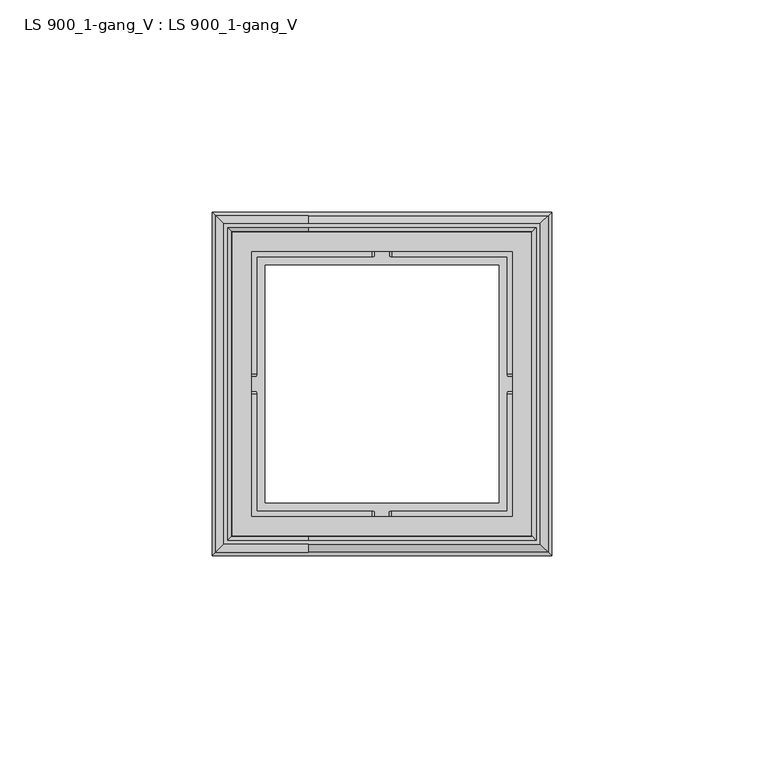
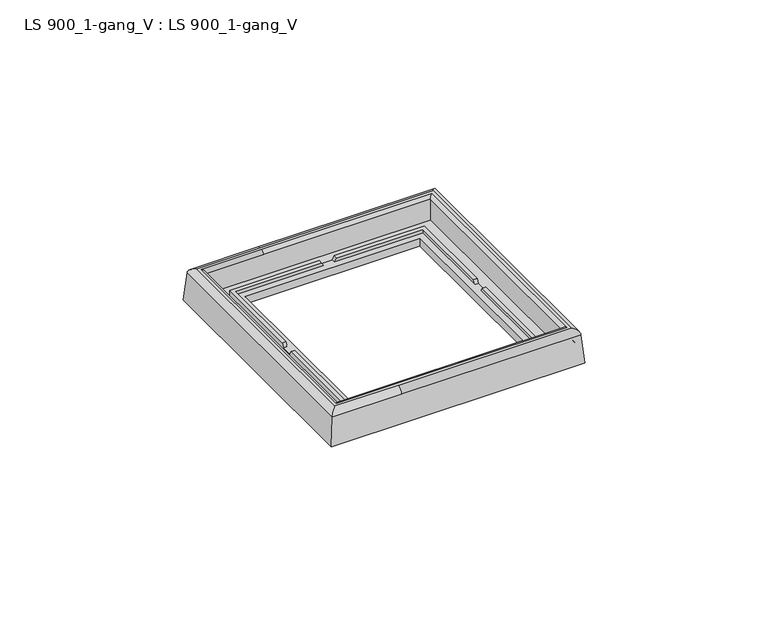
"""IFC4 building model written with IfcOpenShell, lengths in millimetres: proxy geometry, LS 900_1-gang_V : LS 900_1-gang_V."""

import ifcopenshell
import ifcopenshell.guid

model = None  # the IFC model being written
_history = None  # IfcOwnerHistory: only IFC2X3 demands one
_inside = {}  # id of a spatial element -> (the spatial element, [elements in it])
_under = {}  # id of a project, library or spatial element -> (it, [spatial elements below it])
_declared = {}  # id of a project -> (the project, [libraries it declares])
_typed = {}  # id of a type object -> (the type object, [elements of that type])
_made_of = {}  # id of a material, layer set ... -> (it, [elements and type objects made of it])


def new_model(schema):
    """Start an empty IFC model of exactly this schema.

    Asked for "IFC4X3", IfcOpenShell would pick the latest addendum, in which some entities
    have other attributes; the version numbers below select the first issue.
    IFC2X3 requires an IfcOwnerHistory on every rooted entity: one is made here for all.
    """
    global model, _history
    if schema == "IFC4X3":
        model = ifcopenshell.file(schema_version=(4, 3, 0, 0))
    else:
        model = ifcopenshell.file(schema=schema)
    _inside.clear()
    _under.clear()
    _declared.clear()
    _typed.clear()
    _made_of.clear()
    _history = None
    if model.schema == "IFC2X3":
        org = make("IfcOrganization", Name="unknown")
        user = make(
            "IfcPersonAndOrganization",
            ThePerson=make("IfcPerson", FamilyName="unknown"),
            TheOrganization=org,
        )
        app = make(
            "IfcApplication",
            ApplicationDeveloper=org,
            Version="unknown",
            ApplicationFullName="unknown",
            ApplicationIdentifier="unknown",
        )
        _history = make(
            "IfcOwnerHistory",
            OwningUser=user,
            OwningApplication=app,
            ChangeAction="ADDED",
            CreationDate=0,
        )
    return model


def make(cls, **values):
    """One entity of the class cls with the attributes given. An attribute that is None is left unset."""
    return model.create_entity(
        cls, **{name: value for name, value in values.items() if value is not None}
    )


def rooted(cls, **values):
    """An entity with a GlobalId (a new one), such as an element, a storey or a relation."""
    return make(cls, GlobalId=ifcopenshell.guid.new(), OwnerHistory=_history, **values)


def si_unit(unit_type, name, prefix=None):
    """IfcSIUnit, for example si_unit("LENGTHUNIT", "METRE", prefix="MILLI")."""
    return make("IfcSIUnit", UnitType=unit_type, Prefix=prefix, Name=name)


def assignment(units):
    """IfcUnitAssignment: the units of a project."""
    return None if units is None else make("IfcUnitAssignment", Units=units)


def point(xyz):
    """IfcCartesianPoint."""
    return None if xyz is None else make("IfcCartesianPoint", Coordinates=xyz)


def direction(xyz):
    """IfcDirection."""
    return None if xyz is None else make("IfcDirection", DirectionRatios=xyz)


def frame(location, z_axis=None, x_axis=None):
    """IfcAxis2Placement3D, a coordinate frame: its origin and axes. An axis left out is left unset."""
    return make(
        "IfcAxis2Placement3D",
        Location=point(location),
        Axis=direction(z_axis),
        RefDirection=direction(x_axis),
    )


def origin():
    """The frame at (0, 0, 0) with its axes left unset."""
    return frame((0.0, 0.0, 0.0))


def place(relative_to, where):
    """IfcLocalPlacement: puts the frame where relative to a parent placement (None: the world)."""
    return make(
        "IfcLocalPlacement", PlacementRelTo=relative_to, RelativePlacement=where
    )


def context(
    kind, dimensions, precision=None, world=None, true_north=None, identifier=None
):
    """IfcGeometricRepresentationContext, for example the 3D "Model" context."""
    return make(
        "IfcGeometricRepresentationContext",
        ContextIdentifier=identifier,
        ContextType=kind,
        CoordinateSpaceDimension=dimensions,
        Precision=precision,
        WorldCoordinateSystem=world,
        TrueNorth=true_north,
    )


def project(units=None, contexts=None):
    """IfcProject with its units and contexts."""
    return rooted(
        "IfcProject",
        Name="project",
        RepresentationContexts=contexts,
        UnitsInContext=assignment(units),
    )


def spatial(cls, under=None, at=None, **own):
    """A site, building, storey or space (cls), placed at a placement, below another one or the project."""
    s = rooted(cls, ObjectPlacement=at, **own)
    if under is not None:
        _under.setdefault(under.id(), (under, []))[1].append(s)
    return s


def polyline(points):
    """IfcPolyline through the points."""
    return make("IfcPolyline", Points=[point(p) for p in points])


def circle_curve(where, radius):
    """IfcCircle in the frame where."""
    return make("IfcCircle", Position=where, Radius=radius)


def ellipse_curve(where, semi_axis1, semi_axis2):
    """IfcEllipse in the frame where."""
    return make(
        "IfcEllipse", Position=where, SemiAxis1=semi_axis1, SemiAxis2=semi_axis2
    )


def shape(context_of_items, identifier, shape_type, items):
    """IfcShapeRepresentation: the items that make up one representation, for example the "Body"."""
    return make(
        "IfcShapeRepresentation",
        ContextOfItems=context_of_items,
        RepresentationIdentifier=identifier,
        RepresentationType=shape_type,
        Items=items,
    )


def source(mapping_origin, context_of_items, identifier, shape_type, items):
    """IfcRepresentationMap: a shape defined once, which mapped items show again and again."""
    return make(
        "IfcRepresentationMap",
        MappingOrigin=mapping_origin,
        MappedRepresentation=shape(context_of_items, identifier, shape_type, items),
    )


def transform(
    local_origin,
    x_axis=None,
    y_axis=None,
    z_axis=None,
    scale=None,
    scale2=None,
    scale3=None,
    uniform=True,
):
    """IfcCartesianTransformationOperator3D, or its non-uniform kind. x_axis, y_axis, z_axis: its Axis1, 2, 3."""
    if uniform:
        return make(
            "IfcCartesianTransformationOperator3D",
            Axis1=direction(x_axis),
            Axis2=direction(y_axis),
            LocalOrigin=point(local_origin),
            Scale=scale,
            Axis3=direction(z_axis),
        )
    return make(
        "IfcCartesianTransformationOperator3DnonUniform",
        Axis1=direction(x_axis),
        Axis2=direction(y_axis),
        LocalOrigin=point(local_origin),
        Scale=scale,
        Axis3=direction(z_axis),
        Scale2=scale2,
        Scale3=scale3,
    )


def mapped(mapping_source, mapping_target):
    """IfcMappedItem: shows the shape of a source again, moved by a transform."""
    return make(
        "IfcMappedItem", MappingSource=mapping_source, MappingTarget=mapping_target
    )


def made_of(thing, what):
    """Note that an element or type object is made of a material, layer set ...; save() writes the relation."""
    if what is not None:
        _made_of.setdefault(what.id(), (what, []))[1].append(thing)
    return thing


def element(
    cls,
    number,
    at=None,
    inside=None,
    cuts=None,
    type_object=None,
    material=None,
    context=None,
    identifier="Body",
    shape_type=None,
    held_by="IfcProductDefinitionShape",
    body=None,
    shapes=None,
    **own,
):
    """One element of the class cls, such as IfcWall. Its Tag is "e" and its number.

    at: its placement. inside: the storey or other place that contains it. cuts: it is an
    opening in that element (IfcRelVoidsElement). A single representation is given by context,
    identifier, shape_type and body (its items); several are given by shapes. held_by: the class
    of the entity that holds the representations. save() writes the other relations.
    """
    e = rooted(cls, Tag="e%d" % number, ObjectPlacement=at, **own)
    if body is not None:
        shapes = [shape(context, identifier, shape_type, body)]
    if shapes is not None:
        e.Representation = make(held_by, Representations=shapes)
    if inside is not None:
        _inside.setdefault(inside.id(), (inside, []))[1].append(e)
    if cuts is not None:
        rooted(
            "IfcRelVoidsElement", RelatingBuildingElement=cuts, RelatedOpeningElement=e
        )
    if type_object is not None:
        _typed.setdefault(type_object.id(), (type_object, []))[1].append(e)
    return made_of(e, material)


def aggregate(whole, parts):
    """IfcRelAggregates: a whole, such as a stair, and the parts it consists of."""
    return rooted("IfcRelAggregates", RelatingObject=whole, RelatedObjects=parts)


def save(model, path):
    """Write the relations noted so far, then the file.

    IfcRelAggregates (storeys below a building ...), IfcRelContainedInSpatialStructure (elements
    in a storey), IfcRelDefinesByType, IfcRelAssociatesMaterial and IfcRelDeclares: one each for
    every whole, place, type object, material and project.
    """
    for whole, parts in _under.values():
        aggregate(whole, parts)
    for where, things in _inside.values():
        rooted(
            "IfcRelContainedInSpatialStructure",
            RelatedElements=things,
            RelatingStructure=where,
        )
    for kind, things in _typed.values():
        rooted("IfcRelDefinesByType", RelatedObjects=things, RelatingType=kind)
    for what, things in _made_of.values():
        rooted("IfcRelAssociatesMaterial", RelatedObjects=things, RelatingMaterial=what)
    for by, libraries in _declared.values():
        rooted("IfcRelDeclares", RelatingContext=by, RelatedDefinitions=libraries)
    model.write(path)


def plane_surface(at):
    """IfcPlane: the flat surface through the origin of the frame at, square to its z axis."""
    return make("IfcPlane", Position=at)


def cylinder_surface(at, radius):
    """IfcCylindricalSurface: all points at the distance radius from the z axis of the frame at."""
    return make("IfcCylindricalSurface", Position=at, Radius=radius)


def revolved_surface(curve, axis_point, axis_direction):
    """IfcSurfaceOfRevolution: the curve turned about the line through axis_point along axis_direction."""
    return make(
        "IfcSurfaceOfRevolution",
        SweptCurve=make("IfcArbitraryOpenProfileDef", ProfileType="CURVE", Curve=curve),
        AxisPosition=make("IfcAxis1Placement", Location=point(axis_point), Axis=direction(axis_direction)),
    )


def advanced_brep(points, edges, surfaces, faces):
    """IfcAdvancedBrep: a solid bounded by faces that lie on surfaces and meet in shared edges.

    An edge is (start, end): straight between two places in points (the first is 0);
    or (start, end, curve); or (start, end, curve, False) where it runs against its curve.
    A face is (place in surfaces, loops), or (place, loops, False) where it looks against
    its surface's normal. A loop lists edges by number (the first is 1), with a minus sign
    where the edge is run from its end to its start. The first loop is the outer one.
    """
    corners = [point(p) for p in points]
    vertices = [make("IfcVertexPoint", VertexGeometry=c) for c in corners]
    made = []
    for start, end, *more in edges:
        made.append(
            make(
                "IfcEdgeCurve",
                EdgeStart=vertices[start],
                EdgeEnd=vertices[end],
                EdgeGeometry=more[0] if more else make("IfcPolyline", Points=[corners[start], corners[end]]),
                SameSense=more[1] if len(more) > 1 else True,
            )
        )
    hull = []
    for where, loops, *sense in faces:
        bounds = []
        for j, loop in enumerate(loops):
            ring = [make("IfcOrientedEdge", EdgeElement=made[abs(k) - 1], Orientation=k > 0) for k in loop]
            bounds.append(
                make(
                    "IfcFaceOuterBound" if j == 0 else "IfcFaceBound",
                    Bound=make("IfcEdgeLoop", EdgeList=ring),
                    Orientation=True,
                )
            )
        hull.append(make("IfcAdvancedFace", Bounds=bounds, FaceSurface=surfaces[where], SameSense=sense[0] if sense else True))
    return make("IfcAdvancedBrep", Outer=make("IfcClosedShell", CfsFaces=hull))


def ls_900_1_gang_v_ls_900_1_gang_v_71324ef5(model_context):
    return source(origin(), model_context, "Body", "AdvancedBrep", [
        advanced_brep(
        [(22.6234565, 2.7443135, 11.0121536), (2.7443135, 2.7443135, 11.0121536), (0.8036731, 0.8036731, 9.233094), (22.6234565, 0.8036731, 9.233094), (77.2556865, 2.7443135, 11.0121536), (77.2556865, 78.255319, 11.0121536), (22.6234565, 78.255319, 11.0121536), (2.7443135, 78.255319, 11.0121536), (22.6234565, 3.6537637, 11.0121536), (3.6537637, 3.6537637, 11.0121536), (3.6537637, 77.3458689, 11.0121536), (22.6234565, 77.3458689, 11.0121536), (76.3462363, 77.3458689, 11.0121536), (76.3462363, 3.6537637, 11.0121536), (22.6234565, 4.6625766, 10.0132371), (4.6625766, 4.6625766, 10.0132371), (75.3374234, 4.6625766, 10.0132371), (75.2702151, 4.7297849, 3.1959385), (4.7297849, 4.7297849, 3.1959385), (12.4874681, 12.4874681, 1.8000106), (12.4874681, 12.4874681, 4.2997903), (67.5125319, 12.4874681, 4.2997903), (67.5125319, 12.4874681, 1.8000106), (4.7997462, 4.7997462, 1.8000106), (4.7997462, 76.1998864, 1.8000106), (75.2002538, 76.1998864, 1.8000106), (75.2002538, 4.7997462, 1.8000106), (12.4874681, 68.5121645, 1.8000106), (67.5125319, 68.5121645, 1.8000106), (4.7997462, 4.7997462, 0.5497406), (75.2002538, 4.7997462, 0.5497406), (3.3799068, 3.3799068, 0.5497406), (3.3799068, 77.6197258, 0.5497406), (76.6200932, 77.6197258, 0.5497406), (76.6200932, 3.3799068, 0.5497406), (4.7997462, 76.1998864, 0.5497406), (75.2002538, 76.1998864, 0.5497406), (22.6234565, 3.3259466, 5.8428713), (3.3259466, 3.3259466, 5.8428713), (76.6740534, 3.3259466, 5.8428713), (22.6234565, 1.9202575, 5.8970681), (1.9202575, 1.9202575, 5.8970681), (78.0797425, 1.9202575, 5.8970681), (78.5956691, 1.4043309, 0.0), (1.4043309, 1.4043309, 0.0), (0.0, 0.0, 0.0), (0.0, 80.9996326, 0.0), (80.0, 80.9996326, 0.0), (80.0, 0.0, 0.0), (1.4043309, 79.5953017, 0.0), (78.5956691, 79.5953017, 0.0), (79.1963269, 0.8036731, 9.233094), (0.8036731, 80.1959594, 9.233094), (4.6625766, 76.337056, 10.0132371), (4.7297849, 76.2698477, 3.1959385), (12.4874681, 68.5121645, 4.2997903), (3.3259466, 77.673686, 5.8428713), (1.9202575, 79.0793751, 5.8970681), (22.6234565, 80.1959594, 9.233094), (22.6234565, 76.337056, 10.0132371), (75.2702151, 76.2698477, 3.1959385), (75.3374234, 76.337056, 10.0132371), (67.5125319, 68.5121645, 4.2997903), (22.6234565, 77.673686, 5.8428713), (76.6740534, 77.673686, 5.8428713), (22.6234565, 79.0793751, 5.8970681), (78.0797425, 79.0793751, 5.8970681), (79.1963269, 80.1959594, 9.233094), (10.4533937, 38.7998771, 4.2997903), (10.4533937, 10.4533937, 4.2997903), (38.3000609, 10.4533937, 4.2997903), (38.2999393, 9.2933561, 4.2997903), (41.6633251, 9.2933561, 4.2997903), (41.6632021, 10.4533937, 4.2997903), (69.5466063, 10.4533937, 4.2997903), (69.5466063, 38.7998771, 4.2997903), (70.7066439, 38.7997556, 4.2997903), (70.7066439, 42.1631414, 4.2997903), (69.5466063, 42.1630184, 4.2997903), (69.5466063, 70.5462388, 4.2997903), (41.6999391, 70.5462388, 4.2997903), (41.7000607, 71.7062765, 4.2997903), (38.3366749, 71.7062765, 4.2997903), (38.3367979, 70.5462388, 4.2997903), (10.4533937, 70.5462388, 4.2997903), (10.4533937, 42.1630184, 4.2997903), (9.2933561, 42.1631414, 4.2997903), (9.2933561, 38.7997556, 4.2997903), (10.4533937, 10.4533937, 5.5151755), (37.5959607, 10.4533937, 5.5151755), (69.5466063, 10.4533937, 5.5151755), (42.375972, 10.4533937, 5.5151755), (10.4533937, 38.095777, 5.5151755), (9.2933561, 38.095777, 5.5151755), (9.2933561, 9.2933561, 5.5151755), (37.5959607, 9.2933561, 5.5151755), (10.4533937, 42.8757883, 5.5151755), (10.4533937, 70.5462388, 5.5151755), (37.624028, 70.5462388, 5.5151755), (37.624028, 71.7062765, 5.5151755), (9.2933561, 71.7062765, 5.5151755), (9.2933561, 42.8757883, 5.5151755), (70.7066439, 9.2933561, 5.5151755), (70.7066439, 38.095777, 5.5151755), (69.5466063, 38.095777, 5.5151755), (42.375972, 9.2933561, 5.5151755), (70.7066439, 42.8757883, 5.5151755), (70.7066439, 71.7062765, 5.5151755), (42.4040393, 71.7062765, 5.5151755), (42.4040393, 70.5462388, 5.5151755), (69.5466063, 70.5462388, 5.5151755), (69.5466063, 42.8757883, 5.5151755), (9.2933561, 9.2933561, 3.1959385), (70.7066439, 9.2933561, 3.1959385), (9.2933561, 71.7062765, 3.1959385), (70.7066439, 71.7062765, 3.1959385)],
        [
            (0, 1),
            (1, 2, ellipse_curve(frame((2.7443135, 2.7443135, 9.0641755), z_axis=(0.7071067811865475, -0.7071067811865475, 0.0), x_axis=(0.7071067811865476, 0.7071067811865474, 0.0)), 2.754857, 1.9479781)),
            (2, 3),
            (3, 0, circle_curve(frame((22.6234565, 2.7443135, 9.0641755), z_axis=(-1.0, 0.0, 0.0), x_axis=(0.0, 0.0, 1.0)), 1.9479781)),
            (0, 4),
            (4, 5),
            (5, 6),
            (6, 7),
            (7, 1),
            (8, 9),
            (9, 10),
            (10, 11),
            (11, 12),
            (12, 13),
            (13, 8),
            (8, 14, circle_curve(frame((22.6234565, 3.6537637, 10.0032917), z_axis=(-1.0, 0.0, 0.0), x_axis=(0.0, 0.0, 1.0)), 1.0088619)),
            (14, 15),
            (15, 9, ellipse_curve(frame((3.6537637, 3.6537637, 10.0032917), z_axis=(0.7071067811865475, -0.7071067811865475, 0.0), x_axis=(0.7071067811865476, 0.7071067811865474, 0.0)), 1.4267461, 1.0088619)),
            (14, 16),
            (16, 17),
            (17, 18),
            (18, 15),
            (19, 20),
            (20, 21),
            (21, 22),
            (22, 19),
            (23, 24),
            (24, 25),
            (25, 26),
            (26, 23),
            (27, 19),
            (22, 28),
            (28, 27),
            (29, 23),
            (26, 30),
            (30, 29),
            (31, 32),
            (32, 33),
            (33, 34),
            (34, 31),
            (35, 29),
            (30, 36),
            (36, 35),
            (37, 38),
            (38, 31),
            (34, 39),
            (39, 37),
            (37, 40, circle_curve(frame((22.6234565, 2.6217805, 5.8356928), z_axis=(1.0, 0.0, 0.0), x_axis=(0.0, 0.0, 1.0)), 0.7042027)),
            (40, 41),
            (41, 38, ellipse_curve(frame((2.6217805, 2.6217805, 5.8356928), z_axis=(-0.7071067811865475, 0.7071067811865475, 0.0), x_axis=(-0.7071067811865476, -0.7071067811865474, 0.0)), 0.995893, 0.7042027)),
            (40, 42),
            (42, 43),
            (43, 44),
            (44, 41),
            (45, 46),
            (46, 47),
            (47, 48),
            (48, 45),
            (49, 44),
            (43, 50),
            (50, 49),
            (2, 45),
            (48, 51),
            (51, 3),
            (7, 52, ellipse_curve(frame((2.7443135, 78.255319, 9.0641755), z_axis=(-0.7071067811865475, -0.7071067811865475, 0.0), x_axis=(0.7071067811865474, -0.7071067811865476, 0.0)), 2.754857, 1.9479781)),
            (52, 2),
            (15, 53),
            (53, 10, ellipse_curve(frame((3.6537637, 77.3458689, 10.0032917), z_axis=(-0.7071067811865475, -0.7071067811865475, 0.0), x_axis=(0.7071067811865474, -0.7071067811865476, 0.0)), 1.4267461, 1.0088619)),
            (18, 54),
            (54, 53),
            (27, 55),
            (55, 20),
            (35, 24),
            (38, 56),
            (56, 32),
            (41, 57),
            (57, 56, ellipse_curve(frame((2.6217805, 78.3778521, 5.8356928), z_axis=(0.7071067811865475, 0.7071067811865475, 0.0), x_axis=(-0.7071067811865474, 0.7071067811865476, 0.0)), 0.995893, 0.7042027)),
            (49, 57),
            (52, 46),
            (6, 58, circle_curve(frame((22.6234565, 78.255319, 9.0641755), z_axis=(-1.0, 0.0, 0.0), x_axis=(0.0, 0.0, 1.0)), 1.9479781)),
            (58, 52),
            (53, 59),
            (59, 11, circle_curve(frame((22.6234565, 77.3458689, 10.0032917), z_axis=(-1.0, 0.0, 0.0), x_axis=(0.0, 0.0, 1.0)), 1.0088619)),
            (54, 60),
            (60, 61),
            (61, 59),
            (28, 62),
            (62, 55),
            (36, 25),
            (56, 63),
            (63, 64),
            (64, 33),
            (57, 65),
            (65, 63, circle_curve(frame((22.6234565, 78.3778521, 5.8356928), z_axis=(1.0, 0.0, 0.0), x_axis=(0.0, 0.0, 1.0)), 0.7042027)),
            (50, 66),
            (66, 65),
            (58, 67),
            (67, 47),
            (68, 69),
            (69, 70),
            (70, 71),
            (71, 72),
            (72, 73),
            (73, 74),
            (74, 75),
            (75, 76),
            (76, 77),
            (77, 78),
            (78, 79),
            (79, 80),
            (80, 81),
            (81, 82),
            (82, 83),
            (83, 84),
            (84, 85),
            (85, 86),
            (86, 87),
            (87, 68),
            (62, 21),
            (69, 88),
            (88, 89),
            (89, 70),
            (90, 74),
            (73, 91),
            (91, 90),
            (88, 92),
            (92, 93),
            (93, 94),
            (94, 95),
            (95, 89),
            (96, 97),
            (97, 98),
            (98, 99),
            (99, 100),
            (100, 101),
            (101, 96),
            (102, 103),
            (103, 104),
            (104, 90),
            (91, 105),
            (105, 102),
            (106, 107),
            (107, 108),
            (108, 109),
            (109, 110),
            (110, 111),
            (111, 106),
            (94, 112),
            (112, 113),
            (113, 102),
            (105, 72),
            (71, 95),
            (68, 92),
            (84, 97),
            (96, 85),
            (93, 87),
            (86, 101),
            (100, 114),
            (114, 112),
            (83, 98),
            (79, 110),
            (109, 80),
            (99, 82),
            (81, 108),
            (107, 115),
            (115, 114),
            (17, 60),
            (115, 113),
            (75, 104),
            (103, 76),
            (77, 106),
            (111, 78),
            (51, 4, ellipse_curve(frame((77.2556865, 2.7443135, 9.0641755), z_axis=(-0.7071067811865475, -0.7071067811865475, 0.0), x_axis=(-0.7071067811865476, 0.7071067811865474, 0.0)), 2.754857, 1.9479781)),
            (13, 16, ellipse_curve(frame((76.3462363, 3.6537637, 10.0032917), z_axis=(-0.7071067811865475, -0.7071067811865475, 0.0), x_axis=(-0.7071067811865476, 0.7071067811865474, 0.0)), 1.4267461, 1.0088619)),
            (39, 42, ellipse_curve(frame((77.3782195, 2.6217805, 5.8356928), z_axis=(0.7071067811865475, 0.7071067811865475, 0.0), x_axis=(0.7071067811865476, -0.7071067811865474, 0.0)), 0.995893, 0.7042027)),
            (51, 67),
            (67, 5, ellipse_curve(frame((77.2556865, 78.255319, 9.0641755), z_axis=(0.7071067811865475, -0.7071067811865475, 0.0), x_axis=(-0.7071067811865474, -0.7071067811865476, 0.0)), 2.754857, 1.9479781)),
            (12, 61, ellipse_curve(frame((76.3462363, 77.3458689, 10.0032917), z_axis=(0.7071067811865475, -0.7071067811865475, 0.0), x_axis=(-0.7071067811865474, -0.7071067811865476, 0.0)), 1.4267461, 1.0088619)),
            (61, 16),
            (64, 39),
            (64, 66, ellipse_curve(frame((77.3782195, 78.3778521, 5.8356928), z_axis=(-0.7071067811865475, 0.7071067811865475, 0.0), x_axis=(0.7071067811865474, 0.7071067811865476, 0.0)), 0.995893, 0.7042027)),
            (66, 42),
        ],
        [
            cylinder_surface(frame((22.6234565, 2.7443135, 9.0641755), z_axis=(1.0, 0.0, 0.0), x_axis=(0.0, 0.0, 1.0)), 1.9479781),
            plane_surface(frame((22.6234565, 3.6537637, 11.0121536), z_axis=(0.0, 0.0, 1.0), x_axis=(-1.0, 0.0, 0.0))),
            cylinder_surface(frame((22.6234565, 3.6537637, 10.0032917), z_axis=(1.0, 0.0, 0.0), x_axis=(0.0, 0.0, 1.0)), 1.0088619),
            plane_surface(frame((22.6234565, 4.7297849, 3.1959385), z_axis=(0.0, 0.9999514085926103, 0.00985801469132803), x_axis=(-1.0, 0.0, 0.0))),
            plane_surface(frame((22.6234565, 12.4874681, 1.8000106), z_axis=(0.0, 1.0, 0.0), x_axis=(-1.0, 0.0, 0.0))),
            plane_surface(frame((22.6234565, 4.7997462, 1.8000106), z_axis=(0.0, 0.0, -1.0), x_axis=(-1.0, 0.0, 0.0))),
            plane_surface(frame((22.6234565, 4.7997462, 0.5497406), z_axis=(0.0, 1.0, 0.0), x_axis=(-1.0, 0.0, 0.0))),
            plane_surface(frame((22.6234565, 3.3799068, 0.5497406), z_axis=(0.0, 0.0, -1.0), x_axis=(-1.0, 0.0, 0.0))),
            plane_surface(frame((22.6234565, 3.3259466, 5.8428713), z_axis=(0.0, -0.9999480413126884, -0.010193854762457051), x_axis=(-1.0, 0.0, 0.0))),
            revolved_surface(polyline([(1.9175778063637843, 2.6217805, 6.5398955), (22.6234565, 2.6217805, 6.5398955)]), (22.6234565, 2.6217805, 5.8356928), (-1.0, 0.0, 0.0)),
            plane_surface(frame((22.6234565, 1.4043309, 0.0), z_axis=(0.0, 0.996194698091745, -0.08715574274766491), x_axis=(-1.0, 0.0, 0.0))),
            plane_surface(frame((22.6234565, 0.0, 0.0), z_axis=(0.0, 0.0, -1.0), x_axis=(-1.0, 0.0, 0.0))),
            plane_surface(frame((22.6234565, 0.8036731, 9.233094), z_axis=(0.0, -0.996233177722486, 0.08671479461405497), x_axis=(-1.0, 0.0, 0.0))),
            cylinder_surface(frame((2.7443135, 0.0, 9.0641755), z_axis=(0.0, -1.0, 0.0), x_axis=(0.0, 0.0, 1.0)), 1.9479781),
            cylinder_surface(frame((3.6537637, 0.0, 10.0032917), z_axis=(0.0, -1.0, 0.0), x_axis=(0.0, 0.0, 1.0)), 1.0088619),
            plane_surface(frame((4.7297849, 4.7297849, 3.1959385), z_axis=(0.9999514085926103, 0.0, 0.00985801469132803), x_axis=(0.0, 1.0, 0.0))),
            plane_surface(frame((12.4874681, 12.4874681, 1.8000106), z_axis=(1.0, 0.0, 0.0), x_axis=(0.0, 1.0, 0.0))),
            plane_surface(frame((4.7997462, 4.7997462, 0.5497406), z_axis=(1.0, 0.0, 0.0), x_axis=(0.0, 1.0, 0.0))),
            plane_surface(frame((3.3259466, 3.3259466, 5.8428713), z_axis=(-0.9999480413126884, 0.0, -0.010193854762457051), x_axis=(0.0, 1.0, 0.0))),
            revolved_surface(polyline([(2.6217805, 79.08205479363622, 6.5398955), (2.6217805, 1.9175778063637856, 6.5398955)]), (2.6217805, 0.0, 5.8356928), (0.0, 1.0, 0.0)),
            plane_surface(frame((1.4043309, 1.4043309, 0.0), z_axis=(0.996194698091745, 0.0, -0.08715574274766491), x_axis=(0.0, 1.0, 0.0))),
            plane_surface(frame((0.8036731, 0.8036731, 9.233094), z_axis=(-0.996233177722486, 0.0, 0.08671479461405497), x_axis=(0.0, 1.0, 0.0))),
            cylinder_surface(frame((0.0, 78.255319, 9.0641755), z_axis=(-1.0, 0.0, 0.0), x_axis=(0.0, 0.0, 1.0)), 1.9479781),
            cylinder_surface(frame((0.0, 77.3458689, 10.0032917), z_axis=(-1.0, 0.0, 0.0), x_axis=(0.0, 0.0, 1.0)), 1.0088619),
            plane_surface(frame((4.7297849, 76.2698477, 3.1959385), z_axis=(0.0, -0.9999514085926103, 0.00985801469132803), x_axis=(1.0, 0.0, 0.0))),
            plane_surface(frame((12.4874681, 68.5121645, 1.8000106), z_axis=(0.0, -1.0, 0.0), x_axis=(1.0, 0.0, 0.0))),
            plane_surface(frame((4.7997462, 76.1998864, 0.5497406), z_axis=(0.0, -1.0, 0.0), x_axis=(1.0, 0.0, 0.0))),
            plane_surface(frame((3.3259466, 77.673686, 5.8428713), z_axis=(0.0, 0.9999480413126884, -0.010193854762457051), x_axis=(1.0, 0.0, 0.0))),
            revolved_surface(polyline([(22.6234565, 78.3778521, 6.5398955), (1.9175778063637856, 78.3778521, 6.5398955)]), (0.0, 78.3778521, 5.8356928), (1.0, 0.0, 0.0)),
            plane_surface(frame((1.4043309, 79.5953017, 0.0), z_axis=(0.0, -0.996194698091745, -0.08715574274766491), x_axis=(1.0, 0.0, 0.0))),
            plane_surface(frame((0.8036731, 80.1959594, 9.233094), z_axis=(0.0, 0.996233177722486, 0.08671479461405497), x_axis=(1.0, 0.0, 0.0))),
            plane_surface(frame((22.6234565, 12.4874681, 4.2997903), z_axis=(0.0, 0.0, 1.0), x_axis=(-1.0, 0.0, 0.0))),
            plane_surface(frame((22.6234565, 10.4533937, 4.2997903), z_axis=(0.0, 1.0, 0.0), x_axis=(-1.0, 0.0, 0.0))),
            plane_surface(frame((22.6234565, 10.4533937, 5.5151755), z_axis=(0.0, 0.0, 1.0), x_axis=(-1.0, 0.0, 0.0))),
            plane_surface(frame((22.6234565, 9.2933561, 5.5151755), z_axis=(0.0, -1.0, 0.0), x_axis=(-1.0, 0.0, 0.0))),
            plane_surface(frame((10.4533937, 10.4533937, 4.2997903), z_axis=(1.0, 0.0, 0.0), x_axis=(0.0, 1.0, 0.0))),
            plane_surface(frame((9.2933561, 9.2933561, 5.5151755), z_axis=(-1.0, 0.0, 0.0), x_axis=(0.0, 1.0, 0.0))),
            plane_surface(frame((10.4533937, 70.5462388, 4.2997903), z_axis=(0.0, -1.0, 0.0), x_axis=(1.0, 0.0, 0.0))),
            plane_surface(frame((9.2933561, 71.7062765, 5.5151755), z_axis=(0.0, 1.0, 0.0), x_axis=(1.0, 0.0, 0.0))),
            plane_surface(frame((6.8153812, 38.7997556, 4.3), z_axis=(0.0, 0.8652854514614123, 0.5012794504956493), x_axis=(1.0, 0.0, 0.0))),
            plane_surface(frame((6.8153812, 44.5848318, 8.4293643), z_axis=(0.0, -0.8626042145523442, 0.5058794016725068), x_axis=(1.0, 0.0, 0.0))),
            plane_surface(frame((22.6234565, 9.2933561, 3.1959385), z_axis=(0.0, 0.0, 1.0), x_axis=(-1.0, 0.0, 0.0))),
            plane_surface(frame((73.1846188, 36.4075214, 8.4293643), z_axis=(0.0, 0.8652854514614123, 0.5012794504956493), x_axis=(-1.0, 0.0, 0.0))),
            plane_surface(frame((73.1846188, 42.1631414, 4.3), z_axis=(0.0, -0.8626042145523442, 0.5058794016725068), x_axis=(-1.0, 0.0, 0.0))),
            cylinder_surface(frame((22.6234565, 2.7443135, 9.0641755), z_axis=(-1.0, 0.0, 0.0), x_axis=(0.0, 0.0, 1.0)), 1.9479781),
            cylinder_surface(frame((22.6234565, 3.6537637, 10.0032917), z_axis=(-1.0, 0.0, 0.0), x_axis=(0.0, 0.0, 1.0)), 1.0088619),
            revolved_surface(polyline([(78.0824221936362, 2.6217805, 6.5398955), (22.6234565, 2.6217805, 6.5398955)]), (22.6234565, 2.6217805, 5.8356928), (1.0, 0.0, 0.0)),
            cylinder_surface(frame((77.2556865, 0.0, 9.0641755), z_axis=(0.0, -1.0, 0.0), x_axis=(0.0, 0.0, 1.0)), 1.9479781),
            cylinder_surface(frame((76.3462363, 0.0, 10.0032917), z_axis=(0.0, -1.0, 0.0), x_axis=(0.0, 0.0, 1.0)), 1.0088619),
            plane_surface(frame((75.3374234, 4.6625766, 10.0132371), z_axis=(-0.9999514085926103, 0.0, 0.00985801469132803), x_axis=(0.0, 1.0, 0.0))),
            plane_surface(frame((67.5125319, 12.4874681, 4.2997903), z_axis=(-1.0, 0.0, 0.0), x_axis=(0.0, 1.0, 0.0))),
            plane_surface(frame((75.2002538, 4.7997462, 1.8000106), z_axis=(-1.0, 0.0, 0.0), x_axis=(0.0, 1.0, 0.0))),
            plane_surface(frame((76.6200932, 3.3799068, 0.5497406), z_axis=(0.9999480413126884, 0.0, -0.010193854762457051), x_axis=(0.0, 1.0, 0.0))),
            revolved_surface(polyline([(77.3782195, 79.08205479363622, 6.5398955), (77.3782195, 1.9175778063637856, 6.5398955)]), (77.3782195, 0.0, 5.8356928), (0.0, 1.0, 0.0)),
            plane_surface(frame((78.0797425, 1.9202575, 5.8970681), z_axis=(-0.996194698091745, 0.0, -0.08715574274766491), x_axis=(0.0, 1.0, 0.0))),
            plane_surface(frame((80.0, 0.0, 0.0), z_axis=(0.996233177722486, 0.0, 0.08671479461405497), x_axis=(0.0, 1.0, 0.0))),
            cylinder_surface(frame((80.0, 78.255319, 9.0641755), z_axis=(1.0, 0.0, 0.0), x_axis=(0.0, 0.0, 1.0)), 1.9479781),
            cylinder_surface(frame((80.0, 77.3458689, 10.0032917), z_axis=(1.0, 0.0, 0.0), x_axis=(0.0, 0.0, 1.0)), 1.0088619),
            revolved_surface(polyline([(22.623456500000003, 78.3778521, 6.5398955), (78.08242219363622, 78.3778521, 6.5398955)]), (80.0, 78.3778521, 5.8356928), (-1.0, 0.0, 0.0)),
            plane_surface(frame((69.5466063, 10.4533937, 5.5151755), z_axis=(-1.0, 0.0, 0.0), x_axis=(0.0, 1.0, 0.0))),
            plane_surface(frame((70.7066439, 9.2933561, 3.1959385), z_axis=(1.0, 0.0, 0.0), x_axis=(0.0, 1.0, 0.0))),
            plane_surface(frame((44.0922949, 73.6844351, 8.4293643), z_axis=(-0.8652854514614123, 0.0, 0.5012794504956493), x_axis=(0.0, -1.0, 0.0))),
            plane_surface(frame((38.3366749, 73.6844351, 4.3), z_axis=(0.8626042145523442, 0.0, 0.5058794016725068), x_axis=(0.0, -1.0, 0.0))),
            plane_surface(frame((35.9077051, 7.3151975, 8.4293643), z_axis=(0.8652854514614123, 0.0, 0.5012794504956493), x_axis=(0.0, 1.0, 0.0))),
            plane_surface(frame((41.6633251, 7.3151975, 4.3), z_axis=(-0.8626042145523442, 0.0, 0.5058794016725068), x_axis=(0.0, 1.0, 0.0))),
        ],
        [
            (0, [[1, 2, 3, 4]]),
            (1, [[-1, 5, 6, 7, 8, 9], [10, 11, 12, 13, 14, 15]]),
            (2, [[-10, 16, 17, 18]]),
            (3, [[-17, 19, 20, 21, 22]]),
            (4, [[23, 24, 25, 26]]),
            (5, [[27, 28, 29, 30], [31, -26, 32, 33]]),
            (6, [[34, -30, 35, 36]]),
            (7, [[37, 38, 39, 40], [41, -36, 42, 43]]),
            (8, [[44, 45, -40, 46, 47]]),
            (9, [[-44, 48, 49, 50]]),
            (10, [[-49, 51, 52, 53, 54]]),
            (11, [[55, 56, 57, 58], [59, -53, 60, 61]]),
            (12, [[-3, 62, -58, 63, 64]]),
            (13, [[-2, -9, 65, 66]]),
            (14, [[-11, -18, 67, 68]]),
            (15, [[-22, 69, 70, -67]]),
            (16, [[-23, -31, 71, 72]]),
            (17, [[-27, -34, -41, 73]]),
            (18, [[-37, -45, 74, 75]]),
            (19, [[-50, 76, 77, -74]]),
            (20, [[-54, -59, 78, -76]]),
            (21, [[-55, -62, -66, 79]]),
            (22, [[-8, 80, 81, -65]]),
            (23, [[-12, -68, 82, 83]]),
            (24, [[-70, 84, 85, 86, -82]]),
            (25, [[-71, -33, 87, 88]]),
            (26, [[-73, -43, 89, -28]]),
            (27, [[-75, 90, 91, 92, -38]]),
            (28, [[-77, 93, 94, -90]]),
            (29, [[-78, -61, 95, 96, -93]]),
            (30, [[-79, -81, 97, 98, -56]]),
            (31, [[99, 100, 101, 102, 103, 104, 105, 106, 107, 108, 109, 110, 111, 112, 113, 114, 115, 116, 117, 118], [-72, -88, 119, -24]]),
            (32, [[120, 121, 122, -100]]),
            (32, [[123, -104, 124, 125]]),
            (33, [[126, 127, 128, 129, 130, -121]]),
            (33, [[131, 132, 133, 134, 135, 136]]),
            (33, [[137, 138, 139, -125, 140, 141]]),
            (33, [[142, 143, 144, 145, 146, 147]]),
            (34, [[148, 149, 150, -141, 151, -102, 152, -129]]),
            (35, [[-120, -99, 153, -126]]),
            (35, [[154, -131, 155, -115]]),
            (36, [[-148, -128, 156, -117, 157, -135, 158, 159]]),
            (37, [[-154, -114, 160, -132]]),
            (37, [[161, -145, 162, -110]]),
            (38, [[-158, -134, 163, -112, 164, -143, 165, 166]]),
            (39, [[-118, -156, -127, -153]]),
            (40, [[-116, -155, -136, -157]]),
            (41, [[-69, -21, 167, -84], [-159, -166, 168, -149]]),
            (42, [[-106, 169, -138, 170]]),
            (43, [[-108, 171, -147, 172]]),
            (44, [[-64, 173, -5, -4]]),
            (45, [[-15, 174, -19, -16]]),
            (46, [[-47, 175, -51, -48]]),
            (47, [[-173, 176, 177, -6]]),
            (48, [[-14, 178, 179, -174]]),
            (49, [[-20, -179, -85, -167]]),
            (50, [[-25, -119, -87, -32]]),
            (51, [[-29, -89, -42, -35]]),
            (52, [[-39, -92, 180, -46]]),
            (53, [[-175, -180, 181, 182]]),
            (54, [[-52, -182, -95, -60]]),
            (55, [[-57, -98, -176, -63]]),
            (56, [[-7, -177, -97, -80]]),
            (57, [[-13, -83, -86, -178]]),
            (58, [[-181, -91, -94, -96]]),
            (59, [[-123, -139, -169, -105]]),
            (59, [[-161, -109, -172, -146]]),
            (60, [[-150, -168, -165, -142, -171, -107, -170, -137]]),
            (61, [[-111, -162, -144, -164]]),
            (62, [[-113, -163, -133, -160]]),
            (63, [[-101, -122, -130, -152]]),
            (64, [[-103, -151, -140, -124]]),
        ],
    ),
    ])


if __name__ == "__main__":
    model = new_model("IFC4")
    model_context = context("Model", 3, world=origin())
    ifc_project = project(units=[si_unit("LENGTHUNIT", "METRE", prefix="MILLI")], contexts=[model_context])
    site = spatial("IfcSite", under=ifc_project)
    building = spatial("IfcBuilding", under=site)
    placement = place(None, origin())
    ls_900_1_gang_v_ls_900_1_gang_v_shape = ls_900_1_gang_v_ls_900_1_gang_v_71324ef5(model_context)
    element("IfcBuildingElementProxy", 1, Name="LS 900_1-gang_V : LS 900_1-gang_V", ObjectType="LS 900_1-gang_V : LS 900_1-gang_V", at=placement, inside=building, context=model_context, shape_type="MappedRepresentation", body=[
        mapped(ls_900_1_gang_v_ls_900_1_gang_v_shape, transform((0.0, 0.0, 0.0), x_axis=(1.0, 0.0, 0.0), y_axis=(0.0, 1.0, 0.0), z_axis=(0.0, 0.0, 1.0))),
    ])
    save(model, "model.ifc")
